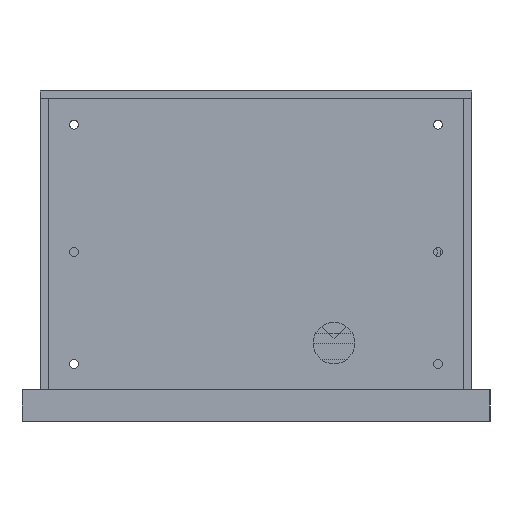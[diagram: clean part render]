
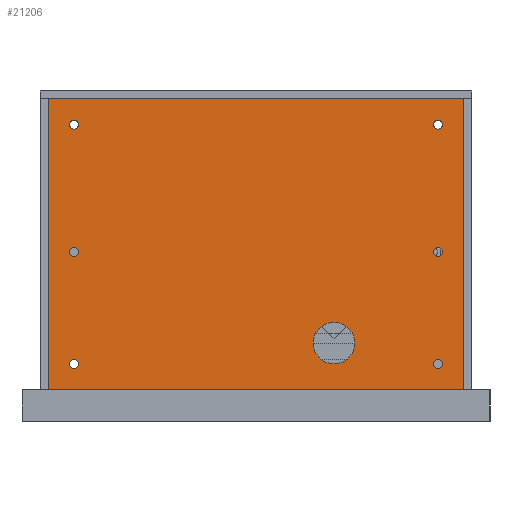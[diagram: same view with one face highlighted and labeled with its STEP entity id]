
A CAD part, left-side view. The second image highlights one B-rep face of the part: STEP entity #21206.
In plain terms, the highlighted planar face has unit normal (-1, 0, 0).
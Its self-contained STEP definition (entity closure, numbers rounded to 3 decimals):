
#21206 = ADVANCED_FACE('',(#21207,#21241,#21252,#21263,#21274,#21285,
    #21296,#21307),#21318,.F.);
#21207 = FACE_BOUND('',#21208,.F.);
#21208 = EDGE_LOOP('',(#21209,#21219,#21227,#21235));
#21209 = ORIENTED_EDGE('',*,*,#21210,.F.);
#21210 = EDGE_CURVE('',#21211,#21213,#21215,.T.);
#21211 = VERTEX_POINT('',#21212);
#21212 = CARTESIAN_POINT('',(-143.,-50.,12.));
#21213 = VERTEX_POINT('',#21214);
#21214 = CARTESIAN_POINT('',(-143.,-50.,124.));
#21215 = LINE('',#21216,#21217);
#21216 = CARTESIAN_POINT('',(-143.,-50.,12.));
#21217 = VECTOR('',#21218,1.);
#21218 = DIRECTION('',(0.,0.,1.));
#21219 = ORIENTED_EDGE('',*,*,#21220,.T.);
#21220 = EDGE_CURVE('',#21211,#21221,#21223,.T.);
#21221 = VERTEX_POINT('',#21222);
#21222 = CARTESIAN_POINT('',(-143.,110.,12.));
#21223 = LINE('',#21224,#21225);
#21224 = CARTESIAN_POINT('',(-143.,-50.,12.));
#21225 = VECTOR('',#21226,1.);
#21226 = DIRECTION('',(-0.,1.,0.));
#21227 = ORIENTED_EDGE('',*,*,#21228,.T.);
#21228 = EDGE_CURVE('',#21221,#21229,#21231,.T.);
#21229 = VERTEX_POINT('',#21230);
#21230 = CARTESIAN_POINT('',(-143.,110.,124.));
#21231 = LINE('',#21232,#21233);
#21232 = CARTESIAN_POINT('',(-143.,110.,12.));
#21233 = VECTOR('',#21234,1.);
#21234 = DIRECTION('',(0.,0.,1.));
#21235 = ORIENTED_EDGE('',*,*,#21236,.F.);
#21236 = EDGE_CURVE('',#21213,#21229,#21237,.T.);
#21237 = LINE('',#21238,#21239);
#21238 = CARTESIAN_POINT('',(-143.,-50.,124.));
#21239 = VECTOR('',#21240,1.);
#21240 = DIRECTION('',(-0.,1.,0.));
#21241 = FACE_BOUND('',#21242,.F.);
#21242 = EDGE_LOOP('',(#21243));
#21243 = ORIENTED_EDGE('',*,*,#21244,.F.);
#21244 = EDGE_CURVE('',#21245,#21245,#21247,.T.);
#21245 = VERTEX_POINT('',#21246);
#21246 = CARTESIAN_POINT('',(-143.,100.,23.7));
#21247 = CIRCLE('',#21248,1.7);
#21248 = AXIS2_PLACEMENT_3D('',#21249,#21250,#21251);
#21249 = CARTESIAN_POINT('',(-143.,100.,22.));
#21250 = DIRECTION('',(1.,0.,0.));
#21251 = DIRECTION('',(-0.,0.,1.));
#21252 = FACE_BOUND('',#21253,.F.);
#21253 = EDGE_LOOP('',(#21254));
#21254 = ORIENTED_EDGE('',*,*,#21255,.F.);
#21255 = EDGE_CURVE('',#21256,#21256,#21258,.T.);
#21256 = VERTEX_POINT('',#21257);
#21257 = CARTESIAN_POINT('',(-143.,100.,66.7));
#21258 = CIRCLE('',#21259,1.7);
#21259 = AXIS2_PLACEMENT_3D('',#21260,#21261,#21262);
#21260 = CARTESIAN_POINT('',(-143.,100.,65.));
#21261 = DIRECTION('',(1.,0.,0.));
#21262 = DIRECTION('',(-0.,0.,1.));
#21263 = FACE_BOUND('',#21264,.F.);
#21264 = EDGE_LOOP('',(#21265));
#21265 = ORIENTED_EDGE('',*,*,#21266,.F.);
#21266 = EDGE_CURVE('',#21267,#21267,#21269,.T.);
#21267 = VERTEX_POINT('',#21268);
#21268 = CARTESIAN_POINT('',(-143.,100.,115.7));
#21269 = CIRCLE('',#21270,1.7);
#21270 = AXIS2_PLACEMENT_3D('',#21271,#21272,#21273);
#21271 = CARTESIAN_POINT('',(-143.,100.,114.));
#21272 = DIRECTION('',(1.,0.,0.));
#21273 = DIRECTION('',(-0.,0.,1.));
#21274 = FACE_BOUND('',#21275,.F.);
#21275 = EDGE_LOOP('',(#21276));
#21276 = ORIENTED_EDGE('',*,*,#21277,.F.);
#21277 = EDGE_CURVE('',#21278,#21278,#21280,.T.);
#21278 = VERTEX_POINT('',#21279);
#21279 = CARTESIAN_POINT('',(-143.,0.,38.));
#21280 = CIRCLE('',#21281,8.);
#21281 = AXIS2_PLACEMENT_3D('',#21282,#21283,#21284);
#21282 = CARTESIAN_POINT('',(-143.,0.,30.));
#21283 = DIRECTION('',(1.,0.,0.));
#21284 = DIRECTION('',(-0.,0.,1.));
#21285 = FACE_BOUND('',#21286,.F.);
#21286 = EDGE_LOOP('',(#21287));
#21287 = ORIENTED_EDGE('',*,*,#21288,.F.);
#21288 = EDGE_CURVE('',#21289,#21289,#21291,.T.);
#21289 = VERTEX_POINT('',#21290);
#21290 = CARTESIAN_POINT('',(-143.,-40.,23.7));
#21291 = CIRCLE('',#21292,1.7);
#21292 = AXIS2_PLACEMENT_3D('',#21293,#21294,#21295);
#21293 = CARTESIAN_POINT('',(-143.,-40.,22.));
#21294 = DIRECTION('',(1.,0.,0.));
#21295 = DIRECTION('',(-0.,0.,1.));
#21296 = FACE_BOUND('',#21297,.F.);
#21297 = EDGE_LOOP('',(#21298));
#21298 = ORIENTED_EDGE('',*,*,#21299,.F.);
#21299 = EDGE_CURVE('',#21300,#21300,#21302,.T.);
#21300 = VERTEX_POINT('',#21301);
#21301 = CARTESIAN_POINT('',(-143.,-40.,66.7));
#21302 = CIRCLE('',#21303,1.7);
#21303 = AXIS2_PLACEMENT_3D('',#21304,#21305,#21306);
#21304 = CARTESIAN_POINT('',(-143.,-40.,65.));
#21305 = DIRECTION('',(1.,0.,0.));
#21306 = DIRECTION('',(-0.,0.,1.));
#21307 = FACE_BOUND('',#21308,.F.);
#21308 = EDGE_LOOP('',(#21309));
#21309 = ORIENTED_EDGE('',*,*,#21310,.F.);
#21310 = EDGE_CURVE('',#21311,#21311,#21313,.T.);
#21311 = VERTEX_POINT('',#21312);
#21312 = CARTESIAN_POINT('',(-143.,-40.,115.7));
#21313 = CIRCLE('',#21314,1.7);
#21314 = AXIS2_PLACEMENT_3D('',#21315,#21316,#21317);
#21315 = CARTESIAN_POINT('',(-143.,-40.,114.));
#21316 = DIRECTION('',(1.,0.,0.));
#21317 = DIRECTION('',(-0.,0.,1.));
#21318 = PLANE('',#21319);
#21319 = AXIS2_PLACEMENT_3D('',#21320,#21321,#21322);
#21320 = CARTESIAN_POINT('',(-143.,-50.,12.));
#21321 = DIRECTION('',(1.,0.,-0.));
#21322 = DIRECTION('',(0.,0.,1.));
